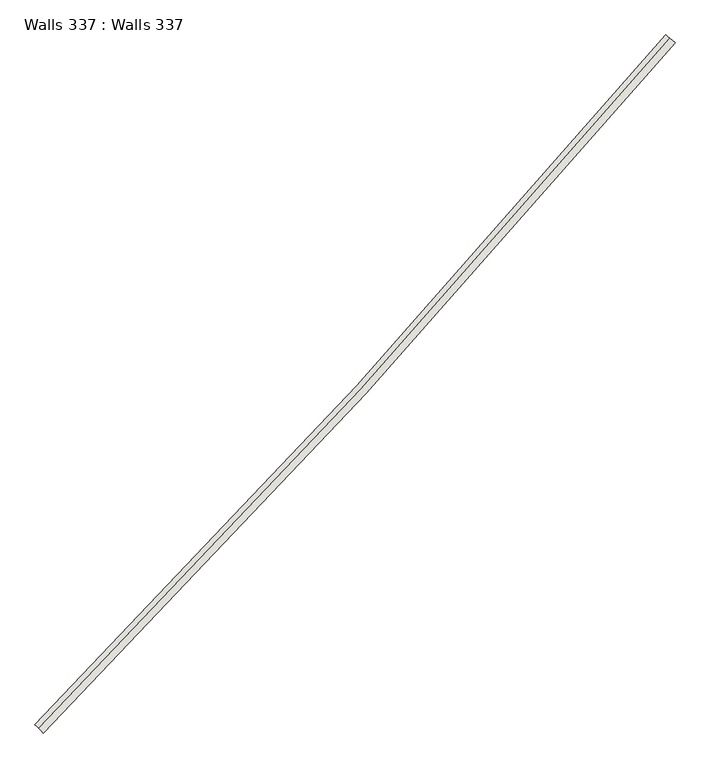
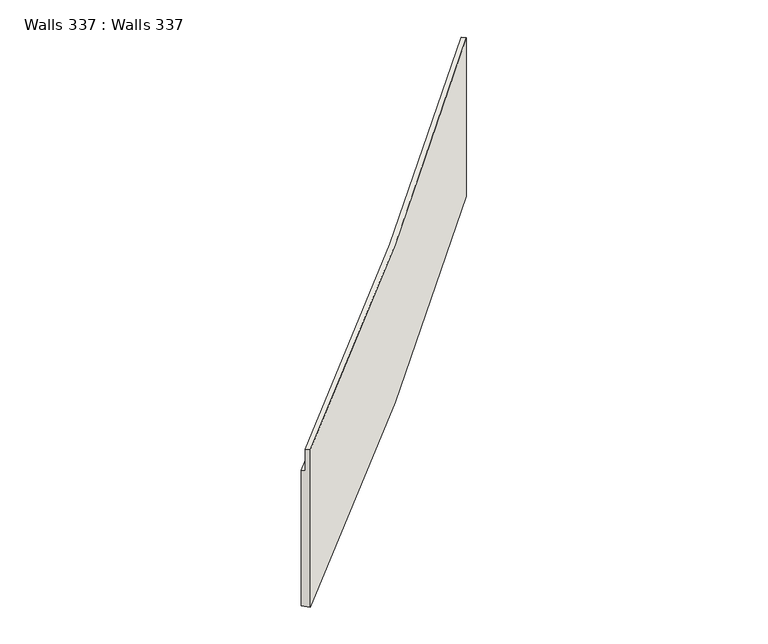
"""IFC4 building model written with IfcOpenShell, lengths in millimetres: wall geometry, Walls 337 : Walls 337."""

from ifc_helpers import new_model, si_unit, frame, origin, place, context, project, spatial, source, transform, mapped, element, save
from ifc_brep_helpers import plane_surface, spline_curve, spline_surface, advanced_brep


def walls_337_walls_337_3bfe6953(model_context):
    return source(origin(), model_context, "Body", "AdvancedBrep", [
        advanced_brep(
        [(10251.1702054, -105018.2641475, 638639.0), (10500.2668052, -105264.1317621, 638639.0), (10500.2668052, -105264.1317621, 645883.0), (10357.925891, -105123.6359823, 645883.0), (10357.925891, -105123.6359823, 644883.0), (10251.1702054, -105018.2641475, 644883.0), (28640.7249179, -84918.3864225, 638918.0), (28640.7249179, -84918.3864225, 645202.0), (28755.1503748, -85015.3751581, 645202.0), (28755.1503748, -85015.3751581, 646202.0), (28907.7176506, -85144.6934722, 646202.0), (28907.7176506, -85144.6934722, 638918.0)],
        [
            (0, 1),
            (1, 2),
            (2, 3),
            (3, 4),
            (4, 5),
            (5, 0),
            (6, 7),
            (7, 8),
            (8, 9),
            (9, 10),
            (10, 11),
            (11, 6),
            (11, 1, spline_curve(3, [(28907.7176506, -85144.6934722, 638918.0), (25968.308996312, -88612.551631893, 638871.500000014), (22963.205448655, -92024.725710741, 638824.999999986), (16825.920722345, -98732.809427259, 638732.000000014), (13693.739545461, -102028.719067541, 638685.499999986), (10500.2668052, -105264.1317621, 638639.0)], [4, 2, 4], [0.0, 44.72386904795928, 89.44773809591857])),
            (0, 6, spline_curve(3, [(10251.1702054, -105018.2641475, 638639.0), (13441.538181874, -101785.99699297, 638685.499999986), (16570.674181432, -98493.291709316, 638732.000000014), (22701.992102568, -91791.729740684, 638824.999999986), (25704.174023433, -88382.873053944, 638871.500000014), (28640.7249179, -84918.3864225, 638918.0)], [4, 2, 4], [0.0, 44.72386904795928, 89.44773809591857])),
            (10, 2, spline_curve(3, [(28907.7176506, -85144.6934722, 646202.0), (25968.308996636, -88612.551632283, 646148.833332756), (22963.205447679, -92024.725709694, 646095.666667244), (16825.920723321, -98732.809428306, 645989.333332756), (13693.739545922, -102028.719067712, 645936.166667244), (10500.2668052, -105264.1317621, 645883.0)], [4, 2, 4], [0.0, 44.74596571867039, 89.49193143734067])),
            (9, 3, spline_curve(3, [(28755.1503748, -85015.3751581, 646202.0), (25817.374726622, -88481.306729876, 646148.83333398), (22813.940679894, -91891.58515608, 646095.66666602), (16680.065555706, -98595.94216012, 645989.33333398), (13549.624480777, -101890.020739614, 645936.16666602), (10357.925891, -105123.6359823, 645883.0)], [4, 2, 4], [0.0, 44.73390953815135, 89.4678190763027])),
            (8, 4, spline_curve(3, [(28755.1503748, -85015.3751581, 645202.0), (25817.374726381, -88481.30673064, 645148.833333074), (22813.940679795, -91891.585155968, 645095.666666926), (16680.065555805, -98595.942160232, 644989.333333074), (13549.62448059, -101890.020739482, 644936.166666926), (10357.925891, -105123.6359823, 644883.0)], [4, 2, 4], [0.0, 44.72148170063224, 89.44296340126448])),
            (7, 5, spline_curve(3, [(28640.7249179, -84918.3864225, 645202.0), (25704.174022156, -88382.873054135, 645148.833332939), (22701.992102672, -91791.729739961, 645095.666667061), (16570.674181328, -98493.291710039, 644989.333332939), (13441.538181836, -101785.996993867, 644936.166667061), (10251.1702054, -105018.2641475, 644883.0)], [4, 2, 4], [0.0, 44.712160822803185, 89.42432164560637])),
        ],
        [
            plane_surface(frame((10369.7876339, -105135.343964, 643135.0), z_axis=(-0.7024788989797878, -0.7117045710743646, 0.0), x_axis=(0.7117045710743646, -0.7024788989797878, 0.0))),
            plane_surface(frame((28767.8643144, -85026.1516843, 643440.6666667), z_axis=(0.6465915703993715, 0.7628363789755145, 0.0), x_axis=(0.7628363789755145, -0.6465915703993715, 0.0))),
            spline_surface(3, 3, [[(28640.7249179, -84918.3864225, 638918.0), (25704.174022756, -88382.873053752, 638871.5), (22701.992102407, -91791.729740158, 638825.0), (16570.674181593, -98493.291709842, 638732.0), (13441.538181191, -101785.996993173, 638685.5), (10251.1702054, -105018.2641475, 638639.0)], [(28685.223706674, -84956.104264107, 638918.0), (25748.196518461, -88421.15281682, 638871.5), (22745.527660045, -91830.562401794, 638825.0), (16613.215271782, -98533.211329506, 638732.0), (13483.571742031, -101826.450672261, 638685.5), (10292.686305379, -105059.242083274, 638639.0)], [(28729.722495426, -84993.822105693, 638918.0), (25792.219014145, -88459.432579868, 638871.5), (22789.063217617, -91869.395063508, 638825.0), (16655.756361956, -98573.130949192, 638732.0), (13525.605302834, -101866.904351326, 638685.5), (10334.202405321, -105100.220019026, 638639.0)], [(28818.720072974, -85069.257788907, 638918.0), (25880.264005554, -88535.992106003, 638871.5), (22876.134332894, -91947.060386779, 638825.0), (16740.838542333, -98652.970188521, 638732.0), (13609.672424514, -101947.811709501, 638685.5), (10417.234605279, -105182.175890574, 638639.0)], [(28863.218861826, -85106.975630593, 638918.0), (25924.286501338, -88574.271869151, 638871.5), (22919.669890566, -91985.893048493, 638825.0), (16783.379632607, -98692.889808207, 638732.0), (13651.705985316, -101988.265388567, 638685.5), (10458.750705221, -105223.153826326, 638639.0)], [(28907.7176506, -85144.6934722, 638918.0), (25968.308997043, -88612.551632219, 638871.5), (22963.205448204, -92024.725710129, 638825.0), (16825.920722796, -98732.809427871, 638732.0), (13693.739546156, -102028.719067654, 638685.5), (10500.2668052, -105264.1317621, 638639.0)]], [4, 2, 4], [4, 2, 4], [0.0, 0.5741469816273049, 1.1482939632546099], [0.0, 44.72386904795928, 89.44773809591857]),
            spline_surface(3, 3, [[(28907.7176506, -85144.6934722, 638918.0), (25968.308997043, -88612.551632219, 638871.5), (22963.205448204, -92024.725710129, 638825.0), (16825.920722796, -98732.809427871, 638732.0), (13693.739546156, -102028.719067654, 638685.5), (10500.2668052, -105264.1317621, 638639.0)], [(28907.7176506, -85144.6934722, 640132.0), (25968.308997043, -88612.551632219, 640084.388888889), (22963.205448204, -92024.725710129, 640036.777777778), (16825.920722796, -98732.809427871, 639941.555555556), (13693.739546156, -102028.719067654, 639893.944444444), (10500.2668052, -105264.1317621, 639846.333333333)], [(28907.7176506, -85144.6934722, 641346.0), (25968.308997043, -88612.551632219, 641297.277777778), (22963.205448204, -92024.725710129, 641248.555555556), (16825.920722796, -98732.809427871, 641151.111111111), (13693.739546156, -102028.719067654, 641102.388888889), (10500.2668052, -105264.1317621, 641053.666666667)], [(28907.7176506, -85144.6934722, 643774.0), (25968.308997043, -88612.551632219, 643723.055555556), (22963.205448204, -92024.725710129, 643672.111111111), (16825.920722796, -98732.809427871, 643570.222222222), (13693.739546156, -102028.719067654, 643519.277777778), (10500.2668052, -105264.1317621, 643468.333333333)], [(28907.7176506, -85144.6934722, 644988.0), (25968.308997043, -88612.551632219, 644935.944444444), (22963.205448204, -92024.725710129, 644883.888888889), (16825.920722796, -98732.809427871, 644779.777777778), (13693.739546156, -102028.719067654, 644727.722222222), (10500.2668052, -105264.1317621, 644675.666666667)], [(28907.7176506, -85144.6934722, 646202.0), (25968.308997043, -88612.551632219, 646148.833333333), (22963.205448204, -92024.725710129, 646095.666666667), (16825.920722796, -98732.809427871, 645989.333333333), (13693.739546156, -102028.719067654, 645936.166666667), (10500.2668052, -105264.1317621, 645883.0)]], [4, 2, 4], [4, 2, 4], [0.0, 11.916010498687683, 23.832020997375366], [0.0, 44.74596571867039, 89.49193143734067]),
            spline_surface(3, 3, [[(28907.7176506, -85144.6934722, 646202.0), (25968.308997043, -88612.551632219, 646148.833333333), (22963.205448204, -92024.725710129, 646095.666666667), (16825.920722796, -98732.809427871, 645989.333333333), (13693.739546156, -102028.719067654, 645936.166666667), (10500.2668052, -105264.1317621, 645883.0)], [(28882.289771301, -85123.140419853, 646202.0), (25943.153285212, -88590.677481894, 646148.833333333), (22938.327986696, -92002.535617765, 646095.666666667), (16801.611528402, -98709.998216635, 645989.333333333), (13669.720368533, -102005.602679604, 645936.166666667), (10476.543319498, -105240.715798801, 645883.0)], [(28856.861891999, -85101.587367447, 646202.0), (25917.997573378, -88568.80333151, 646148.833333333), (22913.450525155, -91980.345525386, 646095.666666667), (16777.302333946, -98687.187005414, 645989.333333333), (13645.701190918, -101982.486291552, 645936.166666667), (10452.819833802, -105217.299835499, 645883.0)], [(28806.006133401, -85058.481262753, 646202.0), (25867.686149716, -88525.055030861, 646148.833333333), (22863.69560214, -91935.96534066, 646095.666666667), (16728.683945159, -98641.56458294, 645989.333333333), (13597.662835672, -101936.253515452, 645936.166666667), (10405.372862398, -105170.467908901, 645883.0)], [(28780.578254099, -85036.928210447, 646202.0), (25842.530437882, -88503.180880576, 646148.833333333), (22838.818140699, -91913.77524818, 646095.666666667), (16704.374750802, -98618.75337162, 645989.333333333), (13573.643658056, -101913.1371274, 645936.166666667), (10381.649376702, -105147.051945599, 645883.0)], [(28755.1503748, -85015.3751581, 646202.0), (25817.374726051, -88481.306730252, 646148.833333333), (22813.940679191, -91891.585155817, 646095.666666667), (16680.065556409, -98595.942160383, 645989.333333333), (13549.624480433, -101890.020739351, 645936.166666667), (10357.925891, -105123.6359823, 645883.0)]], [4, 2, 4], [4, 2, 4], [0.0, 0.3280839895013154, 0.6561679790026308], [0.0, 44.73390953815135, 89.4678190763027]),
            spline_surface(3, 3, [[(28755.1503748, -85015.3751581, 646202.0), (25817.374726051, -88481.306730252, 646148.833333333), (22813.940679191, -91891.585155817, 646095.666666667), (16680.065556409, -98595.942160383, 645989.333333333), (13549.624480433, -101890.020739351, 645936.166666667), (10357.925891, -105123.6359823, 645883.0)], [(28755.1503748, -85015.3751581, 646035.333333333), (25817.374726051, -88481.306730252, 645982.166666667), (22813.940679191, -91891.585155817, 645929.0), (16680.065556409, -98595.942160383, 645822.666666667), (13549.624480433, -101890.020739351, 645769.5), (10357.925891, -105123.6359823, 645716.333333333)], [(28755.1503748, -85015.3751581, 645868.666666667), (25817.374726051, -88481.306730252, 645815.5), (22813.940679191, -91891.585155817, 645762.333333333), (16680.065556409, -98595.942160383, 645656.0), (13549.624480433, -101890.020739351, 645602.833333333), (10357.925891, -105123.6359823, 645549.666666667)], [(28755.1503748, -85015.3751581, 645535.333333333), (25817.374726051, -88481.306730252, 645482.166666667), (22813.940679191, -91891.585155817, 645429.0), (16680.065556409, -98595.942160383, 645322.666666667), (13549.624480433, -101890.020739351, 645269.5), (10357.925891, -105123.6359823, 645216.333333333)], [(28755.1503748, -85015.3751581, 645368.666666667), (25817.374726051, -88481.306730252, 645315.5), (22813.940679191, -91891.585155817, 645262.333333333), (16680.065556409, -98595.942160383, 645156.0), (13549.624480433, -101890.020739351, 645102.833333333), (10357.925891, -105123.6359823, 645049.666666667)], [(28755.1503748, -85015.3751581, 645202.0), (25817.374726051, -88481.306730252, 645148.833333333), (22813.940679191, -91891.585155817, 645095.666666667), (16680.065556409, -98595.942160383, 644989.333333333), (13549.624480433, -101890.020739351, 644936.166666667), (10357.925891, -105123.6359823, 644883.0)]], [4, 2, 4], [4, 2, 4], [0.0, 1.6404199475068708, 3.2808398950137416], [0.0, 44.72148170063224, 89.44296340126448]),
            spline_surface(3, 3, [[(28755.1503748, -85015.3751581, 645202.0), (25817.374726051, -88481.306730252, 645148.833333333), (22813.940679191, -91891.585155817, 645095.666666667), (16680.065556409, -98595.942160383, 644989.333333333), (13549.624480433, -101890.020739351, 644936.166666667), (10357.925891, -105123.6359823, 644883.0)], [(28736.079465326, -84999.21036884, 645202.0), (25798.507942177, -88464.901117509, 645148.833333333), (22795.282583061, -91874.942586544, 645095.666666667), (16661.833660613, -98578.833751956, 644989.333333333), (13531.610097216, -101872.683448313, 644936.166666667), (10340.133276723, -105106.074009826, 644883.0)], [(28717.008555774, -84983.04557956, 645202.0), (25779.641158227, -88448.495504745, 645148.833333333), (22776.62448693, -91858.30001731, 645095.666666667), (16643.601764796, -98561.72534359, 644989.333333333), (13513.59571403, -101855.346157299, 644936.166666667), (10322.340662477, -105088.512037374, 644883.0)], [(28678.866736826, -84950.71600104, 645202.0), (25741.90759048, -88415.684279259, 645148.833333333), (22739.308294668, -91825.014878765, 645095.666666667), (16607.137973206, -98527.508526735, 644989.333333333), (13477.566947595, -101820.671575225, 644936.166666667), (10286.755433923, -105053.388092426, 644883.0)], [(28659.795827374, -84934.55121176, 645202.0), (25723.04080663, -88399.278666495, 645148.833333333), (22720.650198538, -91808.372309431, 645095.666666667), (16588.906077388, -98510.400118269, 644989.333333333), (13459.552564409, -101803.334284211, 644936.166666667), (10268.962819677, -105035.826119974, 644883.0)], [(28640.7249179, -84918.3864225, 645202.0), (25704.174022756, -88382.873053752, 645148.833333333), (22701.992102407, -91791.729740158, 645095.666666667), (16570.674181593, -98493.291709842, 644989.333333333), (13441.538181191, -101785.996993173, 644936.166666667), (10251.1702054, -105018.2641475, 644883.0)]], [4, 2, 4], [4, 2, 4], [0.0, 0.24606299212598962, 0.49212598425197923], [0.0, 44.712160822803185, 89.42432164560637]),
            spline_surface(3, 3, [[(28640.7249179, -84918.3864225, 645202.0), (25704.174022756, -88382.873053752, 645148.833333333), (22701.992102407, -91791.729740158, 645095.666666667), (16570.674181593, -98493.291709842, 644989.333333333), (13441.538181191, -101785.996993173, 644936.166666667), (10251.1702054, -105018.2641475, 644883.0)], [(28640.7249179, -84918.3864225, 644154.666666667), (25704.174022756, -88382.873053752, 644102.611111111), (22701.992102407, -91791.729740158, 644050.555555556), (16570.674181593, -98493.291709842, 643946.444444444), (13441.538181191, -101785.996993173, 643894.388888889), (10251.1702054, -105018.2641475, 643842.333333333)], [(28640.7249179, -84918.3864225, 643107.333333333), (25704.174022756, -88382.873053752, 643056.388888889), (22701.992102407, -91791.729740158, 643005.444444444), (16570.674181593, -98493.291709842, 642903.555555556), (13441.538181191, -101785.996993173, 642852.611111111), (10251.1702054, -105018.2641475, 642801.666666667)], [(28640.7249179, -84918.3864225, 641012.666666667), (25704.174022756, -88382.873053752, 640963.944444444), (22701.992102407, -91791.729740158, 640915.222222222), (16570.674181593, -98493.291709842, 640817.777777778), (13441.538181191, -101785.996993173, 640769.055555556), (10251.1702054, -105018.2641475, 640720.333333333)], [(28640.7249179, -84918.3864225, 639965.333333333), (25704.174022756, -88382.873053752, 639917.722222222), (22701.992102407, -91791.729740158, 639870.111111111), (16570.674181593, -98493.291709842, 639774.888888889), (13441.538181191, -101785.996993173, 639727.277777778), (10251.1702054, -105018.2641475, 639679.666666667)], [(28640.7249179, -84918.3864225, 638918.0), (25704.174022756, -88382.873053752, 638871.5), (22701.992102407, -91791.729740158, 638825.0), (16570.674181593, -98493.291709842, 638732.0), (13441.538181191, -101785.996993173, 638685.5), (10251.1702054, -105018.2641475, 638639.0)]], [4, 2, 4], [4, 2, 4], [0.0, 10.275590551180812, 20.551181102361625], [0.0, 44.70246792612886, 89.40493585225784]),
        ],
        [
            (0, [[1, 2, 3, 4, 5, 6]]),
            (1, [[7, 8, 9, 10, 11, 12]]),
            (2, [[-12, 13, -1, 14]]),
            (3, [[-11, 15, -2, -13]]),
            (4, [[-10, 16, -3, -15]]),
            (5, [[-9, 17, -4, -16]]),
            (6, [[-8, 18, -5, -17]]),
            (7, [[-7, -14, -6, -18]]),
        ],
    ),
    ])


if __name__ == "__main__":
    model = new_model("IFC4")
    model_context = context("Model", 3, world=origin())
    ifc_project = project(units=[si_unit("LENGTHUNIT", "METRE", prefix="MILLI")], contexts=[model_context])
    site = spatial("IfcSite", under=ifc_project)
    building = spatial("IfcBuilding", under=site)
    placement = place(None, origin())
    walls_337_walls_337_shape = walls_337_walls_337_3bfe6953(model_context)
    element("IfcWall", 1, ObjectType="Walls 337 : Walls 337", at=placement, inside=building, context=model_context, shape_type="MappedRepresentation", body=[
        mapped(walls_337_walls_337_shape, transform((0.0, 0.0, 0.0), x_axis=(1.0, 0.0, 0.0), y_axis=(0.0, 1.0, 0.0), z_axis=(0.0, 0.0, 1.0))),
    ])
    save(model, "model.ifc")
